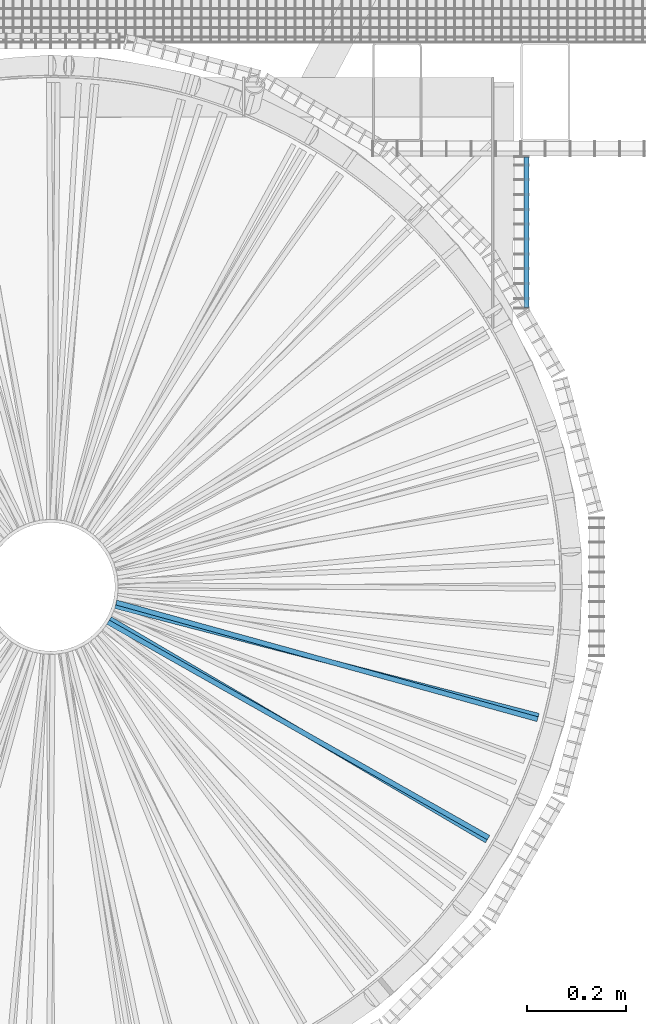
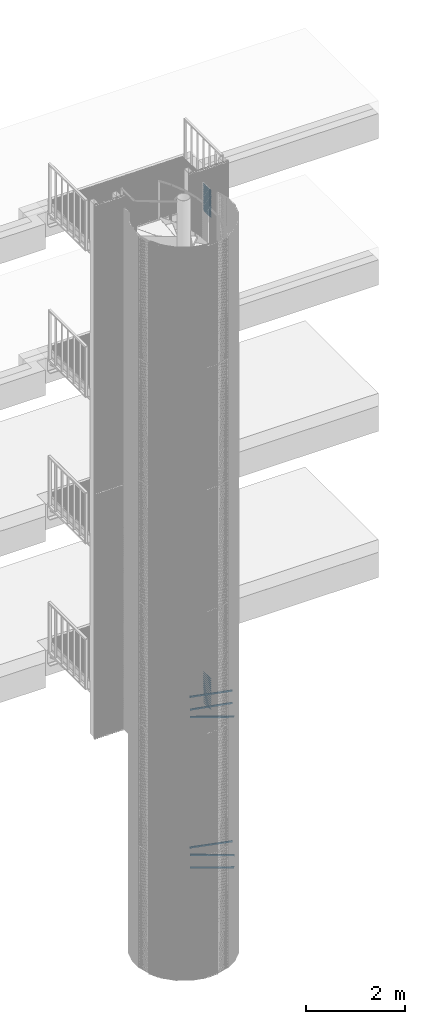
# One storey, part 272 of 1183: 45 beams, 18 elements without a shape of their own.
"""IFC2X3 building model written with IfcOpenShell, lengths in millimetres."""

from ifc_helpers import new_model, si_unit, frame, origin_with_axes, origin_2d_with_axis, place, context, subcontext, project, spatial, polyline, rectangle, outline, extrude, boolean, material, type_object, element, aggregate, save


model = new_model("IFC2X3")

# Units and contexts
model_context = context("Model", 3, precision=1e-05, world=origin_with_axes())
body_context = subcontext(model_context, "Body", "Model", "MODEL_VIEW")
ifc_project = project(units=[si_unit("LENGTHUNIT", "METRE", prefix="MILLI"), si_unit("AREAUNIT", "SQUARE_METRE"), si_unit("VOLUMEUNIT", "CUBIC_METRE"), si_unit("MASSUNIT", "GRAM", prefix="KILO"), si_unit("TIMEUNIT", "SECOND"), si_unit("PLANEANGLEUNIT", "RADIAN"), si_unit("SOLIDANGLEUNIT", "STERADIAN"), si_unit("THERMODYNAMICTEMPERATUREUNIT", "DEGREE_CELSIUS"), si_unit("LUMINOUSINTENSITYUNIT", "LUMEN")], contexts=[model_context])

# Site, building, storey
site_placement = place(None, origin_with_axes())
site = spatial("IfcSite", under=ifc_project, at=site_placement, Name="Undefined", CompositionType="ELEMENT")
building_placement = place(site_placement, origin_with_axes())
building = spatial("IfcBuilding", under=site, at=building_placement, Name="Undefined", CompositionType="ELEMENT")
storey_placement = place(building_placement, origin_with_axes())
storey = spatial("IfcBuildingStorey", under=building, at=storey_placement, Name="Undefined", CompositionType="ELEMENT", Elevation=0.0)

# Assembly, beam
assembly_1_placement = place(storey_placement, origin_with_axes())
assembly_1 = element("IfcElementAssembly", 1, at=assembly_1_placement, inside=storey, AssemblyPlace="NOTDEFINED", PredefinedType="NOTDEFINED")
ifc_material = material(Name="STEEL/S235JR")
beam_type_1 = type_object("IfcBeamType", Name="PL2*10", PredefinedType="NOTDEFINED")
beam_1_placement = place(assembly_1_placement, frame((961.586915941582, 564.782669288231, 5950.0), z_axis=(1.0, 0.0, 0.0), x_axis=(0.0, 1.0, 0.0)))
beam_1 = element("IfcBeam", 2, at=beam_1_placement, type_object=beam_type_1, material=ifc_material, Name="ENTRETOISE", context=body_context, shape_type="SweptSolid", body=[
    extrude(rectangle(XDim=2.0, YDim=10.0, at=origin_2d_with_axis()), frame((303.999999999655, 0.0, 0.0), z_axis=(-1.0, 0.0, 0.0), x_axis=(0.0, -1.0, 0.0)), (0.0, 0.0, 1.0), 304.0),
])
aggregate(assembly_1, [beam_1])

assembly_2_placement = place(storey_placement, origin_with_axes())
assembly_2 = element("IfcElementAssembly", 3, at=assembly_2_placement, inside=storey, AssemblyPlace="NOTDEFINED", PredefinedType="NOTDEFINED")
beam_2_placement = place(assembly_2_placement, frame((961.586915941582, 564.782669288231, 5900.0), z_axis=(1.0, 0.0, 0.0), x_axis=(0.0, 1.0, 0.0)))
beam_2 = element("IfcBeam", 4, at=beam_2_placement, type_object=beam_type_1, material=ifc_material, Name="ENTRETOISE", context=body_context, shape_type="SweptSolid", body=[
    extrude(rectangle(XDim=2.0, YDim=10.0, at=origin_2d_with_axis()), frame((303.999999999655, 0.0, 0.0), z_axis=(-1.0, 0.0, 0.0), x_axis=(0.0, -1.0, 0.0)), (0.0, 0.0, 1.0), 304.0),
])
aggregate(assembly_2, [beam_2])

assembly_3_placement = place(storey_placement, origin_with_axes())
assembly_3 = element("IfcElementAssembly", 5, at=assembly_3_placement, inside=storey, AssemblyPlace="NOTDEFINED", PredefinedType="NOTDEFINED")
beam_3_placement = place(assembly_3_placement, frame((961.586915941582, 564.782669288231, 5850.0), z_axis=(1.0, 0.0, 0.0), x_axis=(0.0, 1.0, 0.0)))
beam_3 = element("IfcBeam", 6, at=beam_3_placement, type_object=beam_type_1, material=ifc_material, Name="ENTRETOISE", context=body_context, shape_type="SweptSolid", body=[
    extrude(rectangle(XDim=2.0, YDim=10.0, at=origin_2d_with_axis()), frame((303.999999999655, 0.0, 0.0), z_axis=(-1.0, 0.0, 0.0), x_axis=(0.0, -1.0, 0.0)), (0.0, 0.0, 1.0), 304.0),
])
aggregate(assembly_3, [beam_3])

assembly_4_placement = place(storey_placement, origin_with_axes())
assembly_4 = element("IfcElementAssembly", 7, at=assembly_4_placement, inside=storey, AssemblyPlace="NOTDEFINED", PredefinedType="NOTDEFINED")
beam_4_placement = place(assembly_4_placement, frame((961.586915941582, 564.782669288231, 5800.0), z_axis=(1.0, 0.0, 0.0), x_axis=(0.0, 1.0, 0.0)))
beam_4 = element("IfcBeam", 8, at=beam_4_placement, type_object=beam_type_1, material=ifc_material, Name="ENTRETOISE", context=body_context, shape_type="SweptSolid", body=[
    extrude(rectangle(XDim=2.0, YDim=10.0, at=origin_2d_with_axis()), frame((303.999999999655, 0.0, 0.0), z_axis=(-1.0, 0.0, 0.0), x_axis=(0.0, -1.0, 0.0)), (0.0, 0.0, 1.0), 304.0),
])
aggregate(assembly_4, [beam_4])

assembly_5_placement = place(storey_placement, origin_with_axes())
assembly_5 = element("IfcElementAssembly", 9, at=assembly_5_placement, inside=storey, AssemblyPlace="NOTDEFINED", PredefinedType="NOTDEFINED")
beam_5_placement = place(assembly_5_placement, frame((961.586915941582, 564.782669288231, 5750.0), z_axis=(1.0, 0.0, 0.0), x_axis=(0.0, 1.0, 0.0)))
beam_5 = element("IfcBeam", 10, at=beam_5_placement, type_object=beam_type_1, material=ifc_material, Name="ENTRETOISE", context=body_context, shape_type="SweptSolid", body=[
    extrude(rectangle(XDim=2.0, YDim=10.0, at=origin_2d_with_axis()), frame((303.999999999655, 0.0, 0.0), z_axis=(-1.0, 0.0, 0.0), x_axis=(0.0, -1.0, 0.0)), (0.0, 0.0, 1.0), 304.0),
])
aggregate(assembly_5, [beam_5])

assembly_6_placement = place(storey_placement, origin_with_axes())
assembly_6 = element("IfcElementAssembly", 11, at=assembly_6_placement, inside=storey, AssemblyPlace="NOTDEFINED", PredefinedType="NOTDEFINED")
beam_6_placement = place(assembly_6_placement, frame((961.586915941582, 564.782669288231, 5700.0), z_axis=(1.0, 0.0, 0.0), x_axis=(0.0, 1.0, 0.0)))
beam_6 = element("IfcBeam", 12, at=beam_6_placement, type_object=beam_type_1, material=ifc_material, Name="ENTRETOISE", context=body_context, shape_type="SweptSolid", body=[
    extrude(rectangle(XDim=2.0, YDim=10.0, at=origin_2d_with_axis()), frame((303.999999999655, 0.0, 0.0), z_axis=(-1.0, 0.0, 0.0), x_axis=(0.0, -1.0, 0.0)), (0.0, 0.0, 1.0), 304.0),
])
aggregate(assembly_6, [beam_6])

assembly_7_placement = place(storey_placement, origin_with_axes())
assembly_7 = element("IfcElementAssembly", 13, at=assembly_7_placement, inside=storey, AssemblyPlace="NOTDEFINED", PredefinedType="NOTDEFINED")
beam_7_placement = place(assembly_7_placement, frame((961.586915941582, 564.782669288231, 5650.0), z_axis=(1.0, 0.0, 0.0), x_axis=(0.0, 1.0, 0.0)))
beam_7 = element("IfcBeam", 14, at=beam_7_placement, type_object=beam_type_1, material=ifc_material, Name="ENTRETOISE", context=body_context, shape_type="SweptSolid", body=[
    extrude(rectangle(XDim=2.0, YDim=10.0, at=origin_2d_with_axis()), frame((303.999999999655, 0.0, 0.0), z_axis=(-1.0, 0.0, 0.0), x_axis=(0.0, -1.0, 0.0)), (0.0, 0.0, 1.0), 304.0),
])
aggregate(assembly_7, [beam_7])

assembly_8_placement = place(storey_placement, origin_with_axes())
assembly_8 = element("IfcElementAssembly", 15, at=assembly_8_placement, inside=storey, AssemblyPlace="NOTDEFINED", PredefinedType="NOTDEFINED")
beam_8_placement = place(assembly_8_placement, frame((961.586915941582, 564.782669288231, 5600.0), z_axis=(1.0, 0.0, 0.0), x_axis=(0.0, 1.0, 0.0)))
beam_8 = element("IfcBeam", 16, at=beam_8_placement, type_object=beam_type_1, material=ifc_material, Name="ENTRETOISE", context=body_context, shape_type="SweptSolid", body=[
    extrude(rectangle(XDim=2.0, YDim=10.0, at=origin_2d_with_axis()), frame((303.999999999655, 0.0, 0.0), z_axis=(-1.0, 0.0, 0.0), x_axis=(0.0, -1.0, 0.0)), (0.0, 0.0, 1.0), 304.0),
])
aggregate(assembly_8, [beam_8])

assembly_9_placement = place(storey_placement, origin_with_axes())
assembly_9 = element("IfcElementAssembly", 17, at=assembly_9_placement, inside=storey, AssemblyPlace="NOTDEFINED", PredefinedType="NOTDEFINED")
beam_9_placement = place(assembly_9_placement, frame((961.586915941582, 564.782669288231, 5550.0), z_axis=(1.0, 0.0, 0.0), x_axis=(0.0, 1.0, 0.0)))
beam_9 = element("IfcBeam", 18, at=beam_9_placement, type_object=beam_type_1, material=ifc_material, Name="ENTRETOISE", context=body_context, shape_type="SweptSolid", body=[
    extrude(rectangle(XDim=2.0, YDim=10.0, at=origin_2d_with_axis()), frame((303.999999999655, 0.0, 0.0), z_axis=(-1.0, 0.0, 0.0), x_axis=(0.0, -1.0, 0.0)), (0.0, 0.0, 1.0), 304.0),
])
aggregate(assembly_9, [beam_9])

assembly_10_placement = place(storey_placement, origin_with_axes())
assembly_10 = element("IfcElementAssembly", 19, at=assembly_10_placement, inside=storey, AssemblyPlace="NOTDEFINED", PredefinedType="NOTDEFINED")
beam_10_placement = place(assembly_10_placement, frame((961.586915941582, 564.782669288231, 5500.0), z_axis=(1.0, 0.0, 0.0), x_axis=(0.0, 1.0, 0.0)))
beam_10 = element("IfcBeam", 20, at=beam_10_placement, type_object=beam_type_1, material=ifc_material, Name="ENTRETOISE", context=body_context, shape_type="SweptSolid", body=[
    extrude(rectangle(XDim=2.0, YDim=10.0, at=origin_2d_with_axis()), frame((303.999999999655, 0.0, 0.0), z_axis=(-1.0, 0.0, 0.0), x_axis=(0.0, -1.0, 0.0)), (0.0, 0.0, 1.0), 304.0),
])
aggregate(assembly_10, [beam_10])

assembly_11_placement = place(storey_placement, origin_with_axes())
assembly_11 = element("IfcElementAssembly", 21, at=assembly_11_placement, inside=storey, AssemblyPlace="NOTDEFINED", PredefinedType="NOTDEFINED")
beam_11_placement = place(assembly_11_placement, frame((961.586915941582, 564.782669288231, 5450.0), z_axis=(1.0, 0.0, 0.0), x_axis=(0.0, 1.0, 0.0)))
beam_11 = element("IfcBeam", 22, at=beam_11_placement, type_object=beam_type_1, material=ifc_material, Name="ENTRETOISE", context=body_context, shape_type="SweptSolid", body=[
    extrude(rectangle(XDim=2.0, YDim=10.0, at=origin_2d_with_axis()), frame((303.999999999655, 0.0, 0.0), z_axis=(-1.0, 0.0, 0.0), x_axis=(0.0, -1.0, 0.0)), (0.0, 0.0, 1.0), 304.0),
])
aggregate(assembly_11, [beam_11])

assembly_12_placement = place(storey_placement, origin_with_axes())
assembly_12 = element("IfcElementAssembly", 23, at=assembly_12_placement, inside=storey, AssemblyPlace="NOTDEFINED", PredefinedType="NOTDEFINED")
beam_12_placement = place(assembly_12_placement, frame((961.586915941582, 564.782669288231, 5400.0), z_axis=(1.0, 0.0, 0.0), x_axis=(0.0, 1.0, 0.0)))
beam_12 = element("IfcBeam", 24, at=beam_12_placement, type_object=beam_type_1, material=ifc_material, Name="ENTRETOISE", context=body_context, shape_type="SweptSolid", body=[
    extrude(rectangle(XDim=2.0, YDim=10.0, at=origin_2d_with_axis()), frame((303.999999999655, 0.0, 0.0), z_axis=(-1.0, 0.0, 0.0), x_axis=(0.0, -1.0, 0.0)), (0.0, 0.0, 1.0), 304.0),
])
aggregate(assembly_12, [beam_12])

assembly_13_placement = place(storey_placement, origin_with_axes())
assembly_13 = element("IfcElementAssembly", 25, at=assembly_13_placement, inside=storey, AssemblyPlace="NOTDEFINED", PredefinedType="NOTDEFINED")
beam_13_placement = place(assembly_13_placement, frame((961.586915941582, 564.782669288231, 5350.0), z_axis=(1.0, 0.0, 0.0), x_axis=(0.0, 1.0, 0.0)))
beam_13 = element("IfcBeam", 26, at=beam_13_placement, type_object=beam_type_1, material=ifc_material, Name="ENTRETOISE", context=body_context, shape_type="SweptSolid", body=[
    extrude(rectangle(XDim=2.0, YDim=10.0, at=origin_2d_with_axis()), frame((303.999999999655, 0.0, 0.0), z_axis=(-1.0, 0.0, 0.0), x_axis=(0.0, -1.0, 0.0)), (0.0, 0.0, 1.0), 304.0),
])
aggregate(assembly_13, [beam_13])

assembly_14_placement = place(storey_placement, origin_with_axes())
assembly_14 = element("IfcElementAssembly", 27, at=assembly_14_placement, inside=storey, AssemblyPlace="NOTDEFINED", PredefinedType="NOTDEFINED")
beam_14_placement = place(assembly_14_placement, frame((961.586915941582, 564.782669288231, 5300.0), z_axis=(1.0, 0.0, 0.0), x_axis=(0.0, 1.0, 0.0)))
beam_14 = element("IfcBeam", 28, at=beam_14_placement, type_object=beam_type_1, material=ifc_material, Name="ENTRETOISE", context=body_context, shape_type="SweptSolid", body=[
    extrude(rectangle(XDim=2.0, YDim=10.0, at=origin_2d_with_axis()), frame((303.999999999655, 0.0, 0.0), z_axis=(-1.0, 0.0, 0.0), x_axis=(0.0, -1.0, 0.0)), (0.0, 0.0, 1.0), 304.0),
])
aggregate(assembly_14, [beam_14])

assembly_15_placement = place(storey_placement, origin_with_axes())
assembly_15 = element("IfcElementAssembly", 29, at=assembly_15_placement, inside=storey, AssemblyPlace="NOTDEFINED", PredefinedType="NOTDEFINED")
beam_15_placement = place(assembly_15_placement, frame((961.586915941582, 564.782669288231, 5250.0), z_axis=(1.0, 0.0, 0.0), x_axis=(0.0, 1.0, 0.0)))
beam_15 = element("IfcBeam", 30, at=beam_15_placement, type_object=beam_type_1, material=ifc_material, Name="ENTRETOISE", context=body_context, shape_type="SweptSolid", body=[
    extrude(rectangle(XDim=2.0, YDim=10.0, at=origin_2d_with_axis()), frame((303.999999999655, 0.0, 0.0), z_axis=(-1.0, 0.0, 0.0), x_axis=(0.0, -1.0, 0.0)), (0.0, 0.0, 1.0), 304.0),
])
aggregate(assembly_15, [beam_15])

assembly_16_placement = place(storey_placement, origin_with_axes())
assembly_16 = element("IfcElementAssembly", 31, at=assembly_16_placement, inside=storey, AssemblyPlace="NOTDEFINED", PredefinedType="NOTDEFINED")
beam_16_placement = place(assembly_16_placement, frame((961.586915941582, 564.782669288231, 5200.0), z_axis=(1.0, 0.0, 0.0), x_axis=(0.0, 1.0, 0.0)))
beam_16 = element("IfcBeam", 32, at=beam_16_placement, type_object=beam_type_1, material=ifc_material, Name="ENTRETOISE", context=body_context, shape_type="SweptSolid", body=[
    extrude(rectangle(XDim=2.0, YDim=10.0, at=origin_2d_with_axis()), frame((303.999999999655, 0.0, 0.0), z_axis=(-1.0, 0.0, 0.0), x_axis=(0.0, -1.0, 0.0)), (0.0, 0.0, 1.0), 304.0),
])
aggregate(assembly_16, [beam_16])

# Assembly, beams
assembly_17_placement = place(storey_placement, origin_with_axes())
assembly_17 = element("IfcElementAssembly", 33, at=assembly_17_placement, inside=storey, Name="BORDURE", AssemblyPlace="NOTDEFINED", PredefinedType="NOTDEFINED")
beam_17_placement = place(assembly_17_placement, frame((961.586915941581, 564.78266928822, 17970.0), z_axis=(1.0, 0.0, 0.0), x_axis=(0.0, 1.0, 0.0)))
beam_17 = element("IfcBeam", 34, at=beam_17_placement, type_object=beam_type_1, material=ifc_material, Name="ENTRETOISE", context=body_context, shape_type="SweptSolid", body=[
    extrude(rectangle(XDim=2.0, YDim=10.0, at=origin_2d_with_axis()), frame((303.999999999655, 0.0, 0.0), z_axis=(-1.0, 0.0, 0.0), x_axis=(0.0, -1.0, 0.0)), (0.0, 0.0, 1.0), 304.0),
])
beam_18_placement = place(assembly_17_placement, frame((961.586915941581, 564.78266928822, 17940.0), z_axis=(1.0, 0.0, 0.0), x_axis=(0.0, 1.0, 0.0)))
beam_18 = element("IfcBeam", 35, at=beam_18_placement, type_object=beam_type_1, material=ifc_material, Name="ENTRETOISE", context=body_context, shape_type="SweptSolid", body=[
    extrude(rectangle(XDim=2.0, YDim=10.0, at=origin_2d_with_axis()), frame((303.999999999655, 0.0, 0.0), z_axis=(-1.0, 0.0, 0.0), x_axis=(0.0, -1.0, 0.0)), (0.0, 0.0, 1.0), 304.0),
])
beam_19_placement = place(assembly_17_placement, frame((961.586915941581, 564.78266928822, 17910.0), z_axis=(1.0, 0.0, 0.0), x_axis=(0.0, 1.0, 0.0)))
beam_19 = element("IfcBeam", 36, at=beam_19_placement, type_object=beam_type_1, material=ifc_material, Name="ENTRETOISE", context=body_context, shape_type="SweptSolid", body=[
    extrude(rectangle(XDim=2.0, YDim=10.0, at=origin_2d_with_axis()), frame((303.999999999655, 0.0, 0.0), z_axis=(-1.0, 0.0, 0.0), x_axis=(0.0, -1.0, 0.0)), (0.0, 0.0, 1.0), 304.0),
])
beam_20_placement = place(assembly_17_placement, frame((961.586915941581, 564.782669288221, 17880.0), z_axis=(1.0, 0.0, 0.0), x_axis=(0.0, 1.0, 0.0)))
beam_20 = element("IfcBeam", 37, at=beam_20_placement, type_object=beam_type_1, material=ifc_material, Name="ENTRETOISE", context=body_context, shape_type="SweptSolid", body=[
    extrude(rectangle(XDim=2.0, YDim=10.0, at=origin_2d_with_axis()), frame((303.999999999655, 0.0, 0.0), z_axis=(-1.0, 0.0, 0.0), x_axis=(0.0, -1.0, 0.0)), (0.0, 0.0, 1.0), 304.0),
])
beam_21_placement = place(assembly_17_placement, frame((961.586915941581, 564.78266928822, 17850.0), z_axis=(1.0, 0.0, 0.0), x_axis=(0.0, 1.0, 0.0)))
beam_21 = element("IfcBeam", 38, at=beam_21_placement, type_object=beam_type_1, material=ifc_material, Name="ENTRETOISE", context=body_context, shape_type="SweptSolid", body=[
    extrude(rectangle(XDim=2.0, YDim=10.0, at=origin_2d_with_axis()), frame((303.999999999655, 0.0, 0.0), z_axis=(-1.0, 0.0, 0.0), x_axis=(0.0, -1.0, 0.0)), (0.0, 0.0, 1.0), 304.0),
])
beam_22_placement = place(assembly_17_placement, frame((961.586915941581, 564.78266928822, 17820.0), z_axis=(1.0, 0.0, 0.0), x_axis=(0.0, 1.0, 0.0)))
beam_22 = element("IfcBeam", 39, at=beam_22_placement, type_object=beam_type_1, material=ifc_material, Name="ENTRETOISE", context=body_context, shape_type="SweptSolid", body=[
    extrude(rectangle(XDim=2.0, YDim=10.0, at=origin_2d_with_axis()), frame((303.999999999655, 0.0, 0.0), z_axis=(-1.0, 0.0, 0.0), x_axis=(0.0, -1.0, 0.0)), (0.0, 0.0, 1.0), 304.0),
])
beam_23_placement = place(assembly_17_placement, frame((961.586915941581, 564.782669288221, 17790.0), z_axis=(1.0, 0.0, 0.0), x_axis=(0.0, 1.0, 0.0)))
beam_23 = element("IfcBeam", 40, at=beam_23_placement, type_object=beam_type_1, material=ifc_material, Name="ENTRETOISE", context=body_context, shape_type="SweptSolid", body=[
    extrude(rectangle(XDim=2.0, YDim=10.0, at=origin_2d_with_axis()), frame((303.999999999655, 0.0, 0.0), z_axis=(-1.0, 0.0, 0.0), x_axis=(0.0, -1.0, 0.0)), (0.0, 0.0, 1.0), 304.0),
])
beam_24_placement = place(assembly_17_placement, frame((961.586915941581, 564.782669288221, 17760.0), z_axis=(1.0, 0.0, 0.0), x_axis=(0.0, 1.0, 0.0)))
beam_24 = element("IfcBeam", 41, at=beam_24_placement, type_object=beam_type_1, material=ifc_material, Name="ENTRETOISE", context=body_context, shape_type="SweptSolid", body=[
    extrude(rectangle(XDim=2.0, YDim=10.0, at=origin_2d_with_axis()), frame((303.999999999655, 0.0, 0.0), z_axis=(-1.0, 0.0, 0.0), x_axis=(0.0, -1.0, 0.0)), (0.0, 0.0, 1.0), 304.0),
])
beam_25_placement = place(assembly_17_placement, frame((961.586915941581, 564.782669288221, 17730.0), z_axis=(1.0, 0.0, 0.0), x_axis=(0.0, 1.0, 0.0)))
beam_25 = element("IfcBeam", 42, at=beam_25_placement, type_object=beam_type_1, material=ifc_material, Name="ENTRETOISE", context=body_context, shape_type="SweptSolid", body=[
    extrude(rectangle(XDim=2.0, YDim=10.0, at=origin_2d_with_axis()), frame((303.999999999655, 0.0, 0.0), z_axis=(-1.0, 0.0, 0.0), x_axis=(0.0, -1.0, 0.0)), (0.0, 0.0, 1.0), 304.0),
])
beam_26_placement = place(assembly_17_placement, frame((961.586915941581, 564.782669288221, 17700.0), z_axis=(1.0, 0.0, 0.0), x_axis=(0.0, 1.0, 0.0)))
beam_26 = element("IfcBeam", 43, at=beam_26_placement, type_object=beam_type_1, material=ifc_material, Name="ENTRETOISE", context=body_context, shape_type="SweptSolid", body=[
    extrude(rectangle(XDim=2.0, YDim=10.0, at=origin_2d_with_axis()), frame((303.999999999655, 0.0, 0.0), z_axis=(-1.0, 0.0, 0.0), x_axis=(0.0, -1.0, 0.0)), (0.0, 0.0, 1.0), 304.0),
])
beam_27_placement = place(assembly_17_placement, frame((961.586915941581, 564.782669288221, 17670.0), z_axis=(1.0, 0.0, 0.0), x_axis=(0.0, 1.0, 0.0)))
beam_27 = element("IfcBeam", 44, at=beam_27_placement, type_object=beam_type_1, material=ifc_material, Name="ENTRETOISE", context=body_context, shape_type="SweptSolid", body=[
    extrude(rectangle(XDim=2.0, YDim=10.0, at=origin_2d_with_axis()), frame((303.999999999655, 0.0, 0.0), z_axis=(-1.0, 0.0, 0.0), x_axis=(0.0, -1.0, 0.0)), (0.0, 0.0, 1.0), 304.0),
])
beam_28_placement = place(assembly_17_placement, frame((961.586915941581, 564.782669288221, 17640.0), z_axis=(1.0, 0.0, 0.0), x_axis=(0.0, 1.0, 0.0)))
beam_28 = element("IfcBeam", 45, at=beam_28_placement, type_object=beam_type_1, material=ifc_material, Name="ENTRETOISE", context=body_context, shape_type="SweptSolid", body=[
    extrude(rectangle(XDim=2.0, YDim=10.0, at=origin_2d_with_axis()), frame((303.999999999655, 0.0, 0.0), z_axis=(-1.0, 0.0, 0.0), x_axis=(0.0, -1.0, 0.0)), (0.0, 0.0, 1.0), 304.0),
])
beam_29_placement = place(assembly_17_placement, frame((961.586915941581, 564.782669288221, 17610.0), z_axis=(1.0, 0.0, 0.0), x_axis=(0.0, 1.0, 0.0)))
beam_29 = element("IfcBeam", 46, at=beam_29_placement, type_object=beam_type_1, material=ifc_material, Name="ENTRETOISE", context=body_context, shape_type="SweptSolid", body=[
    extrude(rectangle(XDim=2.0, YDim=10.0, at=origin_2d_with_axis()), frame((303.999999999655, 0.0, 0.0), z_axis=(-1.0, 0.0, 0.0), x_axis=(0.0, -1.0, 0.0)), (0.0, 0.0, 1.0), 304.0),
])
beam_30_placement = place(assembly_17_placement, frame((961.586915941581, 564.782669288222, 17580.0), z_axis=(1.0, 0.0, 0.0), x_axis=(0.0, 1.0, 0.0)))
beam_30 = element("IfcBeam", 47, at=beam_30_placement, type_object=beam_type_1, material=ifc_material, Name="ENTRETOISE", context=body_context, shape_type="SweptSolid", body=[
    extrude(rectangle(XDim=2.0, YDim=10.0, at=origin_2d_with_axis()), frame((303.999999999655, 0.0, 0.0), z_axis=(-1.0, 0.0, 0.0), x_axis=(0.0, -1.0, 0.0)), (0.0, 0.0, 1.0), 304.0),
])
beam_31_placement = place(assembly_17_placement, frame((961.586915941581, 564.782669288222, 17550.0), z_axis=(1.0, 0.0, 0.0), x_axis=(0.0, 1.0, 0.0)))
beam_31 = element("IfcBeam", 48, at=beam_31_placement, type_object=beam_type_1, material=ifc_material, Name="ENTRETOISE", context=body_context, shape_type="SweptSolid", body=[
    extrude(rectangle(XDim=2.0, YDim=10.0, at=origin_2d_with_axis()), frame((303.999999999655, 0.0, 0.0), z_axis=(-1.0, 0.0, 0.0), x_axis=(0.0, -1.0, 0.0)), (0.0, 0.0, 1.0), 304.0),
])
beam_32_placement = place(assembly_17_placement, frame((961.586915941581, 564.782669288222, 17520.0), z_axis=(1.0, 0.0, 0.0), x_axis=(0.0, 1.0, 0.0)))
beam_32 = element("IfcBeam", 49, at=beam_32_placement, type_object=beam_type_1, material=ifc_material, Name="ENTRETOISE", context=body_context, shape_type="SweptSolid", body=[
    extrude(rectangle(XDim=2.0, YDim=10.0, at=origin_2d_with_axis()), frame((303.999999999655, 0.0, 0.0), z_axis=(-1.0, 0.0, 0.0), x_axis=(0.0, -1.0, 0.0)), (0.0, 0.0, 1.0), 304.0),
])
beam_33_placement = place(assembly_17_placement, frame((961.586915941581, 564.782669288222, 17490.0), z_axis=(1.0, 0.0, 0.0), x_axis=(0.0, 1.0, 0.0)))
beam_33 = element("IfcBeam", 50, at=beam_33_placement, type_object=beam_type_1, material=ifc_material, Name="ENTRETOISE", context=body_context, shape_type="SweptSolid", body=[
    extrude(rectangle(XDim=2.0, YDim=10.0, at=origin_2d_with_axis()), frame((303.999999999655, 0.0, 0.0), z_axis=(-1.0, 0.0, 0.0), x_axis=(0.0, -1.0, 0.0)), (0.0, 0.0, 1.0), 304.0),
])
beam_34_placement = place(assembly_17_placement, frame((961.586915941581, 564.782669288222, 17460.0), z_axis=(1.0, 0.0, 0.0), x_axis=(0.0, 1.0, 0.0)))
beam_34 = element("IfcBeam", 51, at=beam_34_placement, type_object=beam_type_1, material=ifc_material, Name="ENTRETOISE", context=body_context, shape_type="SweptSolid", body=[
    extrude(rectangle(XDim=2.0, YDim=10.0, at=origin_2d_with_axis()), frame((303.999999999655, 0.0, 0.0), z_axis=(-1.0, 0.0, 0.0), x_axis=(0.0, -1.0, 0.0)), (0.0, 0.0, 1.0), 304.0),
])
beam_35_placement = place(assembly_17_placement, frame((961.586915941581, 564.782669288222, 17430.0), z_axis=(1.0, 0.0, 0.0), x_axis=(0.0, 1.0, 0.0)))
beam_35 = element("IfcBeam", 52, at=beam_35_placement, type_object=beam_type_1, material=ifc_material, Name="ENTRETOISE", context=body_context, shape_type="SweptSolid", body=[
    extrude(rectangle(XDim=2.0, YDim=10.0, at=origin_2d_with_axis()), frame((303.999999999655, 0.0, 0.0), z_axis=(-1.0, 0.0, 0.0), x_axis=(0.0, -1.0, 0.0)), (0.0, 0.0, 1.0), 304.0),
])
beam_36_placement = place(assembly_17_placement, frame((961.586915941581, 564.782669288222, 17400.0), z_axis=(1.0, 0.0, 0.0), x_axis=(0.0, 1.0, 0.0)))
beam_36 = element("IfcBeam", 53, at=beam_36_placement, type_object=beam_type_1, material=ifc_material, Name="ENTRETOISE", context=body_context, shape_type="SweptSolid", body=[
    extrude(rectangle(XDim=2.0, YDim=10.0, at=origin_2d_with_axis()), frame((303.999999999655, 0.0, 0.0), z_axis=(-1.0, 0.0, 0.0), x_axis=(0.0, -1.0, 0.0)), (0.0, 0.0, 1.0), 304.0),
])
beam_37_placement = place(assembly_17_placement, frame((961.586915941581, 564.782669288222, 17370.0), z_axis=(1.0, 0.0, 0.0), x_axis=(0.0, 1.0, 0.0)))
beam_37 = element("IfcBeam", 54, at=beam_37_placement, type_object=beam_type_1, material=ifc_material, Name="ENTRETOISE", context=body_context, shape_type="SweptSolid", body=[
    extrude(rectangle(XDim=2.0, YDim=10.0, at=origin_2d_with_axis()), frame((303.999999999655, 0.0, 0.0), z_axis=(-1.0, 0.0, 0.0), x_axis=(0.0, -1.0, 0.0)), (0.0, 0.0, 1.0), 304.0),
])
beam_38_placement = place(assembly_17_placement, frame((961.586915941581, 564.782669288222, 17340.0), z_axis=(1.0, 0.0, 0.0), x_axis=(0.0, 1.0, 0.0)))
beam_38 = element("IfcBeam", 55, at=beam_38_placement, type_object=beam_type_1, material=ifc_material, Name="ENTRETOISE", context=body_context, shape_type="SweptSolid", body=[
    extrude(rectangle(XDim=2.0, YDim=10.0, at=origin_2d_with_axis()), frame((303.999999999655, 0.0, 0.0), z_axis=(-1.0, 0.0, 0.0), x_axis=(0.0, -1.0, 0.0)), (0.0, 0.0, 1.0), 304.0),
])
beam_39_placement = place(assembly_17_placement, frame((961.586915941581, 564.782669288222, 17310.0), z_axis=(1.0, 0.0, 0.0), x_axis=(0.0, 1.0, 0.0)))
beam_39 = element("IfcBeam", 56, at=beam_39_placement, type_object=beam_type_1, material=ifc_material, Name="ENTRETOISE", context=body_context, shape_type="SweptSolid", body=[
    extrude(rectangle(XDim=2.0, YDim=10.0, at=origin_2d_with_axis()), frame((303.999999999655, 0.0, 0.0), z_axis=(-1.0, 0.0, 0.0), x_axis=(0.0, -1.0, 0.0)), (0.0, 0.0, 1.0), 304.0),
])
aggregate(assembly_17, [beam_17, beam_18, beam_19, beam_20, beam_21, beam_22, beam_23, beam_24, beam_25, beam_26, beam_27, beam_28, beam_29, beam_30, beam_31, beam_32, beam_33, beam_34, beam_35, beam_36, beam_37, beam_38, beam_39])

assembly_18_placement = place(storey_placement, origin_with_axes())
assembly_18 = element("IfcElementAssembly", 57, at=assembly_18_placement, inside=storey, Name="POTEAU", AssemblyPlace="NOTDEFINED", PredefinedType="NOTDEFINED")
beam_type_2 = type_object("IfcBeamType", Name="PL10*40", PredefinedType="NOTDEFINED")
beam_40_placement = place(assembly_18_placement, frame((70.5571919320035, -45.6889352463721, 5693.24), z_axis=(0.0, 0.0, 1.0), x_axis=(0.870228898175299, -0.492647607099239, 0.0)))
beam_40 = element("IfcBeam", 58, at=beam_40_placement, type_object=beam_type_2, material=ifc_material, Name="RAIDISSEUR", context=body_context, shape_type="CSG", body=[
    boolean("DIFFERENCE", extrude(rectangle(XDim=10.0, YDim=40.0, at=origin_2d_with_axis()), frame((935.982964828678, -2.59787459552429e-14, -3.63797880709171e-12), z_axis=(-1.0, 0.0, 0.0), x_axis=(0.0, -1.0, 0.0)), (0.0, 0.0, 1.0), 935.98), extrude(outline(polyline([(0.0, 0.0), (30.5663019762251, -4.91127138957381e-11), (60.366242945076, 6.80164206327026), (87.9055294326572, 20.0638634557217), (111.803226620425, 39.1216410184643), (130.861004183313, 63.0193382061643), (144.123225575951, 90.5586246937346), (150.9248676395, 120.358565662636), (150.924867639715, 150.924867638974), (144.123225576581, 180.724808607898), (130.86100418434, 208.264095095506), (111.803226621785, 232.161792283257), (87.9055294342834, 251.219569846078), (60.3662429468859, 264.481791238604), (30.5663019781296, 271.283433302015), (1.90266291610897e-09, 271.28343330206), (-29.7999409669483, 264.481791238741), (-57.3392274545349, 251.219569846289), (-81.2369246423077, 232.161792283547), (-100.294702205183, 208.26409509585), (-113.556923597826, 180.724808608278), (-120.35856566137, 150.92486763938), (-120.358565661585, 120.358565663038), (-113.556923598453, 90.5586246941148), (-100.294702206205, 63.0193382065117), (-81.2369246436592, 39.1216410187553), (-57.3392274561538, 20.0638634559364), (-29.7999409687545, 6.80164206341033), (0.0, 0.0)])), frame((-204.335275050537, -59.264073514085, -22.5), z_axis=(0.0, 0.0, 1.0), x_axis=(0.566618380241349, -0.823980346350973, 0.0)), (0.0, 0.0, 1.0), 45.0)),
])
beam_41_placement = place(assembly_18_placement, frame((70.5571919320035, -45.6889352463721, 1984.76), z_axis=(0.0, 0.0, 1.0), x_axis=(0.870228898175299, -0.492647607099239, 0.0)))
beam_41 = element("IfcBeam", 59, at=beam_41_placement, type_object=beam_type_2, material=ifc_material, Name="RAIDISSEUR", context=body_context, shape_type="CSG", body=[
    boolean("DIFFERENCE", extrude(rectangle(XDim=10.0, YDim=40.0, at=origin_2d_with_axis()), frame((935.982964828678, -2.59787459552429e-14, -3.63797880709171e-12), z_axis=(-1.0, 0.0, 0.0), x_axis=(0.0, -1.0, 0.0)), (0.0, 0.0, 1.0), 935.98), extrude(outline(polyline([(0.0, 0.0), (30.5663019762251, -4.91127138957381e-11), (60.366242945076, 6.80164206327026), (87.9055294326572, 20.0638634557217), (111.803226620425, 39.1216410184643), (130.861004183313, 63.0193382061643), (144.123225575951, 90.5586246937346), (150.9248676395, 120.358565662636), (150.924867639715, 150.924867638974), (144.123225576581, 180.724808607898), (130.86100418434, 208.264095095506), (111.803226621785, 232.161792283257), (87.9055294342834, 251.219569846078), (60.3662429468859, 264.481791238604), (30.5663019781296, 271.283433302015), (1.90266291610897e-09, 271.28343330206), (-29.7999409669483, 264.481791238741), (-57.3392274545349, 251.219569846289), (-81.2369246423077, 232.161792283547), (-100.294702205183, 208.26409509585), (-113.556923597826, 180.724808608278), (-120.35856566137, 150.92486763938), (-120.358565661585, 120.358565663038), (-113.556923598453, 90.5586246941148), (-100.294702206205, 63.0193382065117), (-81.2369246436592, 39.1216410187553), (-57.3392274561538, 20.0638634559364), (-29.7999409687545, 6.80164206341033), (0.0, 0.0)])), frame((-204.335275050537, -59.264073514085, -22.5), z_axis=(0.0, 0.0, 1.0), x_axis=(0.566618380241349, -0.823980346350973, 0.0)), (0.0, 0.0, 1.0), 45.0)),
])
beam_42_placement = place(assembly_18_placement, frame((74.8463745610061, -38.2598530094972, 2293.8), z_axis=(0.0, 0.0, 1.0), x_axis=(0.861759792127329, -0.507316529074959, 0.0)))
beam_42 = element("IfcBeam", 60, at=beam_42_placement, type_object=beam_type_2, material=ifc_material, Name="RAIDISSEUR", context=body_context, shape_type="CSG", body=[
    boolean("DIFFERENCE", extrude(rectangle(XDim=10.0, YDim=40.0, at=origin_2d_with_axis()), frame((935.982964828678, -2.59787459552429e-14, -3.63797880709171e-12), z_axis=(-1.0, 0.0, 0.0), x_axis=(0.0, -1.0, 0.0)), (0.0, 0.0, 1.0), 935.98), extrude(outline(polyline([(0.0, 0.0), (30.5663019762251, -4.91127138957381e-11), (60.366242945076, 6.80164206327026), (87.9055294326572, 20.0638634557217), (111.803226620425, 39.1216410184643), (130.861004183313, 63.0193382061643), (144.123225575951, 90.5586246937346), (150.9248676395, 120.358565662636), (150.924867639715, 150.924867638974), (144.123225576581, 180.724808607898), (130.86100418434, 208.264095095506), (111.803226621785, 232.161792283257), (87.9055294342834, 251.219569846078), (60.3662429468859, 264.481791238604), (30.5663019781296, 271.283433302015), (1.90266291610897e-09, 271.28343330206), (-29.7999409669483, 264.481791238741), (-57.3392274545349, 251.219569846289), (-81.2369246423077, 232.161792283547), (-100.294702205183, 208.26409509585), (-113.556923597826, 180.724808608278), (-120.35856566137, 150.92486763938), (-120.358565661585, 120.358565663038), (-113.556923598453, 90.5586246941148), (-100.294702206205, 63.0193382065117), (-81.2369246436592, 39.1216410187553), (-57.3392274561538, 20.0638634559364), (-29.7999409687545, 6.80164206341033), (0.0, 0.0)])), frame((-203.22952031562, -71.2945797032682, -22.5), z_axis=(0.0, 0.0, 1.0), x_axis=(0.580493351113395, -0.814264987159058, 0.0)), (0.0, 0.0, 1.0), 45.0)),
])
beam_43_placement = place(assembly_18_placement, frame((82.1984248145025, -17.5845129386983, 2448.32), z_axis=(0.0, 0.0, 1.0), x_axis=(0.963699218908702, -0.266990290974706, 0.0)))
beam_43 = element("IfcBeam", 61, at=beam_43_placement, type_object=beam_type_2, material=ifc_material, Name="RAIDISSEUR", context=body_context, shape_type="CSG", body=[
    boolean("DIFFERENCE", extrude(rectangle(XDim=10.0, YDim=40.0, at=origin_2d_with_axis()), frame((935.982964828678, -2.59787459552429e-14, -3.63797880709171e-12), z_axis=(-1.0, 0.0, 0.0), x_axis=(0.0, -1.0, 0.0)), (0.0, 0.0, 1.0), 935.98), extrude(outline(polyline([(0.0, 0.0), (30.5663019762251, -4.91127138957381e-11), (60.366242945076, 6.80164206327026), (87.9055294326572, 20.0638634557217), (111.803226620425, 39.1216410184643), (130.861004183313, 63.0193382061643), (144.123225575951, 90.5586246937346), (150.9248676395, 120.358565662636), (150.924867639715, 150.924867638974), (144.123225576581, 180.724808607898), (130.86100418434, 208.264095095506), (111.803226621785, 232.161792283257), (87.9055294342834, 251.219569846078), (60.3662429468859, 264.481791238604), (30.5663019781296, 271.283433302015), (1.90266291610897e-09, 271.28343330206), (-29.7999409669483, 264.481791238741), (-57.3392274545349, 251.219569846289), (-81.2369246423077, 232.161792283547), (-100.294702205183, 208.26409509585), (-113.556923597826, 180.724808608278), (-120.35856566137, 150.92486763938), (-120.358565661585, 120.358565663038), (-113.556923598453, 90.5586246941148), (-100.294702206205, 63.0193382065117), (-81.2369246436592, 39.1216410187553), (-57.3392274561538, 20.0638634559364), (-29.7999409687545, 6.80164206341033), (0.0, 0.0)])), frame((-216.322087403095, -38.1533405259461, -22.4999999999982), z_axis=(0.0, 0.0, 1.0), x_axis=(0.349966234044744, -0.936762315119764, 0.0)), (0.0, 0.0, 1.0), 45.0)),
])
beam_44_placement = place(assembly_18_placement, frame((79.9781805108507, -25.8705774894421, 5847.76), z_axis=(0.0, 0.0, 1.0), x_axis=(0.968083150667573, -0.250629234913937, 0.0)))
beam_44 = element("IfcBeam", 62, at=beam_44_placement, type_object=beam_type_2, material=ifc_material, Name="RAIDISSEUR", context=body_context, shape_type="CSG", body=[
    boolean("DIFFERENCE", extrude(rectangle(XDim=10.0, YDim=40.0, at=origin_2d_with_axis()), frame((935.982964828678, -2.59787459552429e-14, -3.63797880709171e-12), z_axis=(-1.0, 0.0, 0.0), x_axis=(0.0, -1.0, 0.0)), (0.0, 0.0, 1.0), 935.98), extrude(outline(polyline([(0.0, 0.0), (30.5663019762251, -4.91127138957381e-11), (60.366242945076, 6.80164206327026), (87.9055294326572, 20.0638634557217), (111.803226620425, 39.1216410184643), (130.861004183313, 63.0193382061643), (144.123225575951, 90.5586246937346), (150.9248676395, 120.358565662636), (150.924867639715, 150.924867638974), (144.123225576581, 180.724808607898), (130.86100418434, 208.264095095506), (111.803226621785, 232.161792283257), (87.9055294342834, 251.219569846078), (60.3662429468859, 264.481791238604), (30.5663019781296, 271.283433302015), (1.90266291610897e-09, 271.28343330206), (-29.7999409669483, 264.481791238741), (-57.3392274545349, 251.219569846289), (-81.2369246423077, 232.161792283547), (-100.294702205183, 208.26409509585), (-113.556923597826, 180.724808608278), (-120.35856566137, 150.92486763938), (-120.358565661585, 120.358565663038), (-113.556923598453, 90.5586246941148), (-100.294702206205, 63.0193382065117), (-81.2369246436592, 39.1216410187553), (-57.3392274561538, 20.0638634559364), (-29.7999409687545, 6.80164206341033), (0.0, 0.0)])), frame((-216.864630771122, -25.9058318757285, -22.5), z_axis=(0.0, 0.0, 1.0), x_axis=(0.334049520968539, -0.942555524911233, 0.0)), (0.0, 0.0, 1.0), 45.0)),
])
beam_45_placement = place(assembly_18_placement, frame((82.1984248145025, -17.5845129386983, 6156.80000000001), z_axis=(0.0, 0.0, 1.0), x_axis=(0.963699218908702, -0.266990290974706, 0.0)))
beam_45 = element("IfcBeam", 63, at=beam_45_placement, type_object=beam_type_2, material=ifc_material, Name="RAIDISSEUR", context=body_context, shape_type="CSG", body=[
    boolean("DIFFERENCE", extrude(rectangle(XDim=10.0, YDim=40.0, at=origin_2d_with_axis()), frame((935.982964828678, -2.59787459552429e-14, -3.63797880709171e-12), z_axis=(-1.0, 0.0, 0.0), x_axis=(0.0, -1.0, 0.0)), (0.0, 0.0, 1.0), 935.98), extrude(outline(polyline([(0.0, 0.0), (30.5663019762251, -4.91127138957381e-11), (60.366242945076, 6.80164206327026), (87.9055294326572, 20.0638634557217), (111.803226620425, 39.1216410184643), (130.861004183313, 63.0193382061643), (144.123225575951, 90.5586246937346), (150.9248676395, 120.358565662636), (150.924867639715, 150.924867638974), (144.123225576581, 180.724808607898), (130.86100418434, 208.264095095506), (111.803226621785, 232.161792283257), (87.9055294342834, 251.219569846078), (60.3662429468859, 264.481791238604), (30.5663019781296, 271.283433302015), (1.90266291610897e-09, 271.28343330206), (-29.7999409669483, 264.481791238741), (-57.3392274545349, 251.219569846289), (-81.2369246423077, 232.161792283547), (-100.294702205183, 208.26409509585), (-113.556923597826, 180.724808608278), (-120.35856566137, 150.92486763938), (-120.358565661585, 120.358565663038), (-113.556923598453, 90.5586246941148), (-100.294702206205, 63.0193382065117), (-81.2369246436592, 39.1216410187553), (-57.3392274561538, 20.0638634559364), (-29.7999409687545, 6.80164206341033), (0.0, 0.0)])), frame((-216.322087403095, -38.1533405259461, -22.4999999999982), z_axis=(0.0, 0.0, 1.0), x_axis=(0.349966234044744, -0.936762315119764, 0.0)), (0.0, 0.0, 1.0), 45.0)),
])
aggregate(assembly_18, [beam_40, beam_41, beam_42, beam_43, beam_44, beam_45])

save(model, "model.ifc")
